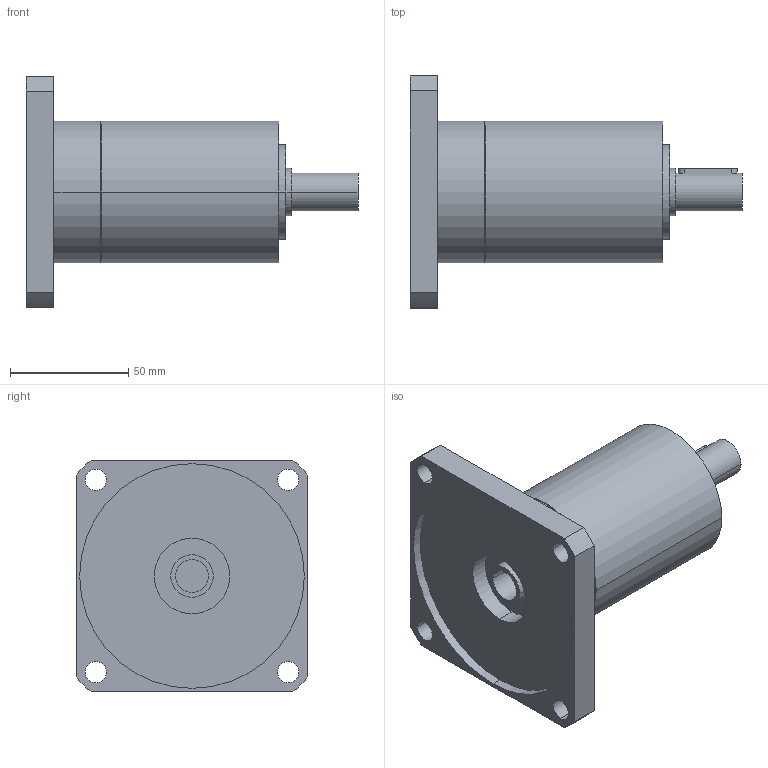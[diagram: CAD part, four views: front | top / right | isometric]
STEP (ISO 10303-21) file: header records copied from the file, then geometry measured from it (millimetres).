
FILE_DESCRIPTION(('CoCreate Modeling STEP Export'),'2;1');
FILE_NAME('GPR75_ig-9-12-16-20-24-30-36_16_B14_14_P08.stp','2014-08-25T16:45:12',(''),(''),'CoCreate Modeling STEP processor for AP214 (Solid Model)','CoCreate Modeling 16.00C 25-Feb-2009 (C) Parametric Technology GmbH','');
FILE_SCHEMA(('AUTOMOTIVE_DESIGN { 1 0 10303 214 1 1 1 1 }'));
Length unit declared in the file: millimetre
Products named in the file (2): GPR75_ig-9-12-16-20-24-30-36_16_B14_14_P08
Assembly tree (1 placements, depth 2):
  GPR75_ig-9-12-16-20-24-30-36_16_B14_14_P08
    GPR75_ig-9-12-16-20-24-30-36_16_B14_14_P08
Bounding box: 140.4 x 98 x 98 mm (x, y, z)
Volume: 348212.3 mm3; surface area: 48656.2 mm2
Topology: 1 solids, 1 shells, 70 faces, 188 edges, 132 vertices
Faces by surface type: cylinder 42, plane 22, cone 6
Entity records: 1939 total; most frequent: ORIENTED_EDGE 372, CARTESIAN_POINT 360, DIRECTION 262, EDGE_CURVE 186, VERTEX_POINT 132, AXIS2_PLACEMENT_3D 98, EDGE_LOOP 92, FACE_OUTER_BOUND 70
